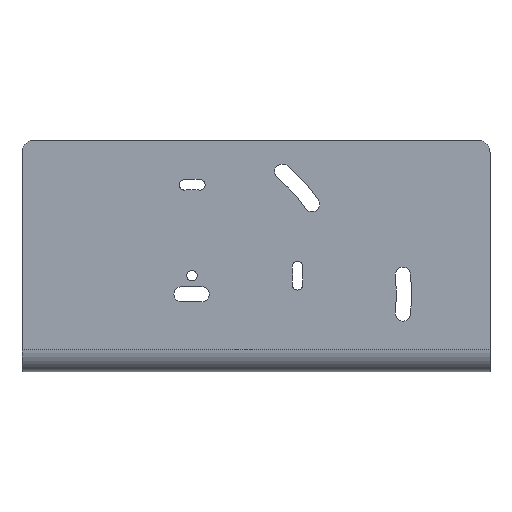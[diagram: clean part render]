
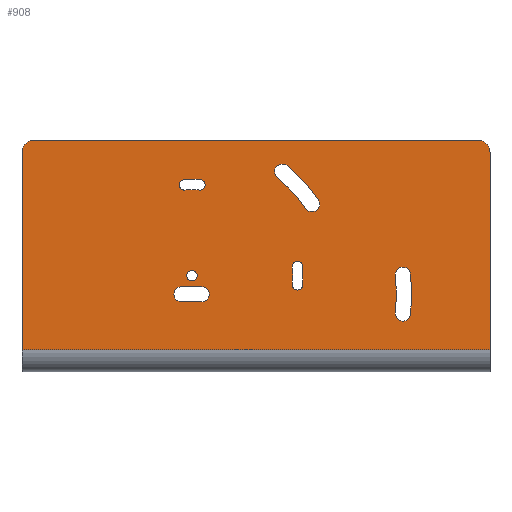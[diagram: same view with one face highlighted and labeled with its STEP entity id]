
A CAD part, front view. The second image highlights one B-rep face of the part: STEP entity #908.
In plain terms, the highlighted planar face has unit normal (0, -1, 0).
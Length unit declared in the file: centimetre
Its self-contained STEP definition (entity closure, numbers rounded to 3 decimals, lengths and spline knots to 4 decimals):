
#115=PLANE('',#1013);
#121=VECTOR('',#1028,1.);
#131=VECTOR('',#1062,1.);
#140=VECTOR('',#1125,1.);
#153=VECTOR('',#1169,1.);
#169=VECTOR('',#1239,1.);
#171=VECTOR('',#1246,1.);
#181=LINE('',#1290,#121);
#191=LINE('',#1330,#131);
#200=LINE('',#1395,#140);
#213=LINE('',#1433,#153);
#229=LINE('',#1492,#169);
#231=LINE('',#1498,#171);
#243=VERTEX_POINT('',#1289);
#244=VERTEX_POINT('',#1291);
#258=VERTEX_POINT('',#1323);
#260=VERTEX_POINT('',#1329);
#284=VERTEX_POINT('',#1381);
#288=VERTEX_POINT('',#1394);
#297=VERTEX_POINT('',#1437);
#298=VERTEX_POINT('',#1439);
#299=VERTEX_POINT('',#1443);
#300=VERTEX_POINT('',#1447);
#301=VERTEX_POINT('',#1453);
#302=VERTEX_POINT('',#1455);
#303=VERTEX_POINT('',#1459);
#304=VERTEX_POINT('',#1463);
#305=VERTEX_POINT('',#1469);
#306=VERTEX_POINT('',#1471);
#307=VERTEX_POINT('',#1475);
#308=VERTEX_POINT('',#1479);
#309=VERTEX_POINT('',#1485);
#310=VERTEX_POINT('',#1487);
#311=VERTEX_POINT('',#1491);
#312=VERTEX_POINT('',#1495);
#313=VERTEX_POINT('',#1501);
#314=VERTEX_POINT('',#1504);
#315=VERTEX_POINT('',#1506);
#316=VERTEX_POINT('',#1510);
#317=VERTEX_POINT('',#1514);
#330=CIRCLE('',#925,0.5);
#351=CIRCLE('',#949,0.5);
#361=CIRCLE('',#974,0.21);
#362=CIRCLE('',#976,4.51);
#363=CIRCLE('',#978,0.21);
#364=CIRCLE('',#980,4.09);
#365=CIRCLE('',#982,9.31);
#366=CIRCLE('',#984,0.31);
#367=CIRCLE('',#986,8.69);
#368=CIRCLE('',#988,0.31);
#369=CIRCLE('',#990,0.31);
#370=CIRCLE('',#992,6.7451);
#371=CIRCLE('',#994,0.31);
#372=CIRCLE('',#996,6.1251);
#373=CIRCLE('',#998,0.31);
#374=CIRCLE('',#1001,0.31);
#375=CIRCLE('',#1004,0.21);
#376=CIRCLE('',#1006,0.21);
#377=CIRCLE('',#1008,3.49);
#378=CIRCLE('',#1010,0.21);
#379=CIRCLE('',#1012,3.91);
#388=EDGE_CURVE('',#243,#244,#181,.T.);
#405=EDGE_CURVE('',#258,#243,#330,.T.);
#408=EDGE_CURVE('',#260,#258,#191,.T.);
#434=EDGE_CURVE('',#284,#260,#351,.T.);
#441=EDGE_CURVE('',#288,#284,#200,.T.);
#460=EDGE_CURVE('',#244,#288,#213,.T.);
#462=EDGE_CURVE('',#298,#297,#361,.T.);
#465=EDGE_CURVE('',#297,#299,#362,.T.);
#467=EDGE_CURVE('',#299,#300,#363,.T.);
#468=EDGE_CURVE('',#298,#300,#364,.T.);
#470=EDGE_CURVE('',#302,#301,#365,.T.);
#473=EDGE_CURVE('',#301,#303,#366,.T.);
#475=EDGE_CURVE('',#304,#303,#367,.T.);
#476=EDGE_CURVE('',#304,#302,#368,.T.);
#478=EDGE_CURVE('',#306,#305,#369,.T.);
#481=EDGE_CURVE('',#305,#307,#370,.T.);
#483=EDGE_CURVE('',#307,#308,#371,.T.);
#484=EDGE_CURVE('',#306,#308,#372,.T.);
#486=EDGE_CURVE('',#310,#309,#373,.T.);
#489=EDGE_CURVE('',#311,#309,#229,.T.);
#491=EDGE_CURVE('',#311,#312,#374,.T.);
#492=EDGE_CURVE('',#310,#312,#231,.T.);
#493=EDGE_CURVE('',#313,#313,#375,.T.);
#495=EDGE_CURVE('',#315,#314,#376,.T.);
#498=EDGE_CURVE('',#316,#314,#377,.T.);
#500=EDGE_CURVE('',#316,#317,#378,.T.);
#501=EDGE_CURVE('',#317,#315,#379,.T.);
#719=ORIENTED_EDGE('',*,*,#405,.F.);
#720=ORIENTED_EDGE('',*,*,#408,.F.);
#721=ORIENTED_EDGE('',*,*,#434,.F.);
#722=ORIENTED_EDGE('',*,*,#441,.F.);
#723=ORIENTED_EDGE('',*,*,#460,.F.);
#724=ORIENTED_EDGE('',*,*,#388,.F.);
#725=ORIENTED_EDGE('',*,*,#501,.T.);
#726=ORIENTED_EDGE('',*,*,#495,.T.);
#727=ORIENTED_EDGE('',*,*,#498,.F.);
#728=ORIENTED_EDGE('',*,*,#500,.T.);
#729=ORIENTED_EDGE('',*,*,#493,.T.);
#730=ORIENTED_EDGE('',*,*,#492,.F.);
#731=ORIENTED_EDGE('',*,*,#486,.T.);
#732=ORIENTED_EDGE('',*,*,#489,.F.);
#733=ORIENTED_EDGE('',*,*,#491,.T.);
#734=ORIENTED_EDGE('',*,*,#484,.F.);
#735=ORIENTED_EDGE('',*,*,#478,.T.);
#736=ORIENTED_EDGE('',*,*,#481,.T.);
#737=ORIENTED_EDGE('',*,*,#483,.T.);
#738=ORIENTED_EDGE('',*,*,#476,.T.);
#739=ORIENTED_EDGE('',*,*,#470,.T.);
#740=ORIENTED_EDGE('',*,*,#473,.T.);
#741=ORIENTED_EDGE('',*,*,#475,.F.);
#742=ORIENTED_EDGE('',*,*,#468,.F.);
#743=ORIENTED_EDGE('',*,*,#462,.T.);
#744=ORIENTED_EDGE('',*,*,#465,.T.);
#745=ORIENTED_EDGE('',*,*,#467,.T.);
#799=EDGE_LOOP('',(#719,#720,#721,#722,#723,#724));
#800=EDGE_LOOP('',(#725,#726,#727,#728));
#801=EDGE_LOOP('',(#729));
#802=EDGE_LOOP('',(#730,#731,#732,#733));
#803=EDGE_LOOP('',(#734,#735,#736,#737));
#804=EDGE_LOOP('',(#738,#739,#740,#741));
#805=EDGE_LOOP('',(#742,#743,#744,#745));
#859=FACE_BOUND('',#799,.T.);
#860=FACE_BOUND('',#800,.T.);
#861=FACE_BOUND('',#801,.T.);
#862=FACE_BOUND('',#802,.T.);
#863=FACE_BOUND('',#803,.T.);
#864=FACE_BOUND('',#804,.T.);
#865=FACE_BOUND('',#805,.T.);
#908=ADVANCED_FACE('',(#859,#860,#861,#862,#863,#864,#865),#115,.F.);
#925=AXIS2_PLACEMENT_3D('',#1324,#1057,#1058);
#949=AXIS2_PLACEMENT_3D('',#1382,#1111,#1112);
#974=AXIS2_PLACEMENT_3D('',#1438,#1174,#1175);
#976=AXIS2_PLACEMENT_3D('',#1444,#1180,#1181);
#978=AXIS2_PLACEMENT_3D('',#1448,#1185,#1186);
#980=AXIS2_PLACEMENT_3D('',#1450,#1189,#1190);
#982=AXIS2_PLACEMENT_3D('',#1454,#1194,#1195);
#984=AXIS2_PLACEMENT_3D('',#1460,#1200,#1201);
#986=AXIS2_PLACEMENT_3D('',#1464,#1205,#1206);
#988=AXIS2_PLACEMENT_3D('',#1466,#1209,#1210);
#990=AXIS2_PLACEMENT_3D('',#1470,#1214,#1215);
#992=AXIS2_PLACEMENT_3D('',#1476,#1220,#1221);
#994=AXIS2_PLACEMENT_3D('',#1480,#1225,#1226);
#996=AXIS2_PLACEMENT_3D('',#1482,#1229,#1230);
#998=AXIS2_PLACEMENT_3D('',#1486,#1234,#1235);
#1001=AXIS2_PLACEMENT_3D('',#1496,#1243,#1244);
#1004=AXIS2_PLACEMENT_3D('',#1500,#1249,#1250);
#1006=AXIS2_PLACEMENT_3D('',#1505,#1254,#1255);
#1008=AXIS2_PLACEMENT_3D('',#1511,#1260,#1261);
#1010=AXIS2_PLACEMENT_3D('',#1515,#1265,#1266);
#1012=AXIS2_PLACEMENT_3D('',#1517,#1269,#1270);
#1013=AXIS2_PLACEMENT_3D('',#1518,#1271,$);
#1028=DIRECTION('',(0.,0.,-1.));
#1057=DIRECTION('',(0.,1.,0.));
#1058=DIRECTION('',(0.354,0.,0.354));
#1062=DIRECTION('',(1.,0.,0.));
#1111=DIRECTION('',(0.,1.,0.));
#1112=DIRECTION('',(-0.354,0.,0.354));
#1125=DIRECTION('',(0.,0.,1.));
#1169=DIRECTION('',(-1.,0.,0.));
#1174=DIRECTION('',(0.,1.,0.));
#1175=DIRECTION('',(0.21,0.,0.));
#1180=DIRECTION('',(0.,1.,0.));
#1181=DIRECTION('',(4.51,0.,0.));
#1185=DIRECTION('',(0.,1.,0.));
#1186=DIRECTION('',(0.21,0.,0.));
#1189=DIRECTION('',(0.,1.,0.));
#1190=DIRECTION('',(4.09,0.,0.));
#1194=DIRECTION('',(0.,1.,0.));
#1195=DIRECTION('',(9.31,0.,0.));
#1200=DIRECTION('',(0.,1.,0.));
#1201=DIRECTION('',(0.31,0.,0.));
#1205=DIRECTION('',(0.,1.,0.));
#1206=DIRECTION('',(8.69,0.,0.));
#1209=DIRECTION('',(0.,1.,0.));
#1210=DIRECTION('',(0.31,0.,0.));
#1214=DIRECTION('',(0.,1.,0.));
#1215=DIRECTION('',(0.31,0.,0.));
#1220=DIRECTION('',(0.,1.,0.));
#1221=DIRECTION('',(6.745,0.,0.));
#1225=DIRECTION('',(0.,1.,0.));
#1226=DIRECTION('',(0.31,0.,0.));
#1229=DIRECTION('',(0.,1.,0.));
#1230=DIRECTION('',(6.125,0.,0.));
#1234=DIRECTION('',(0.,1.,0.));
#1235=DIRECTION('',(0.31,0.,0.));
#1239=DIRECTION('',(1.,0.,0.));
#1243=DIRECTION('',(0.,1.,0.));
#1244=DIRECTION('',(0.31,0.,0.));
#1246=DIRECTION('',(-1.,0.,0.));
#1249=DIRECTION('',(0.,1.,0.));
#1250=DIRECTION('',(0.21,0.,0.));
#1254=DIRECTION('',(0.,1.,0.));
#1255=DIRECTION('',(0.21,0.,0.));
#1260=DIRECTION('',(0.,1.,0.));
#1261=DIRECTION('',(3.49,0.,0.));
#1265=DIRECTION('',(0.,1.,0.));
#1266=DIRECTION('',(0.21,0.,0.));
#1269=DIRECTION('',(0.,1.,0.));
#1270=DIRECTION('',(3.91,0.,0.));
#1271=DIRECTION('',(0.,1.,0.));
#1289=CARTESIAN_POINT('',(14.,0.,7.5));
#1290=CARTESIAN_POINT('',(14.,0.,8.));
#1291=CARTESIAN_POINT('',(14.,0.,-0.5));
#1323=CARTESIAN_POINT('',(13.5,0.,8.));
#1324=CARTESIAN_POINT('',(13.5,0.,7.5));
#1329=CARTESIAN_POINT('',(-4.5,0.,8.));
#1330=CARTESIAN_POINT('',(-5.,0.,8.));
#1381=CARTESIAN_POINT('',(-5.,0.,7.5));
#1382=CARTESIAN_POINT('',(-4.5,0.,7.5));
#1394=CARTESIAN_POINT('',(-5.,0.,-0.5));
#1395=CARTESIAN_POINT('',(-5.,0.,0.));
#1433=CARTESIAN_POINT('',(4.5,0.,-0.5));
#1437=CARTESIAN_POINT('',(6.3928,0.,2.8931));
#1438=CARTESIAN_POINT('',(6.1836,0.,2.8748));
#1439=CARTESIAN_POINT('',(5.9744,0.,2.8565));
#1443=CARTESIAN_POINT('',(6.3928,0.,2.1069));
#1444=CARTESIAN_POINT('',(1.9,0.,2.5));
#1447=CARTESIAN_POINT('',(5.9744,0.,2.1435));
#1448=CARTESIAN_POINT('',(6.1836,0.,2.1252));
#1450=CARTESIAN_POINT('',(1.9,0.,2.5));
#1453=CARTESIAN_POINT('',(10.7746,0.,0.9386));
#1454=CARTESIAN_POINT('',(1.5,0.,1.75));
#1455=CARTESIAN_POINT('',(10.7746,0.,2.5614));
#1459=CARTESIAN_POINT('',(10.1569,0.,0.9926));
#1460=CARTESIAN_POINT('',(10.4658,0.,0.9656));
#1463=CARTESIAN_POINT('',(10.1569,0.,2.5074));
#1464=CARTESIAN_POINT('',(1.5,0.,1.75));
#1466=CARTESIAN_POINT('',(10.4658,0.,2.5344));
#1469=CARTESIAN_POINT('',(5.7586,0.,6.9643));
#1470=CARTESIAN_POINT('',(5.562,0.,6.7247));
#1471=CARTESIAN_POINT('',(5.3653,0.,6.485));
#1475=CARTESIAN_POINT('',(7.0301,0.,5.583));
#1476=CARTESIAN_POINT('',(1.48,0.,1.75));
#1479=CARTESIAN_POINT('',(6.52,0.,5.2307));
#1480=CARTESIAN_POINT('',(6.775,0.,5.4068));
#1482=CARTESIAN_POINT('',(1.48,0.,1.75));
#1485=CARTESIAN_POINT('',(2.3,0.,1.44));
#1486=CARTESIAN_POINT('',(2.3,0.,1.75));
#1487=CARTESIAN_POINT('',(2.3,0.,2.06));
#1491=CARTESIAN_POINT('',(1.48,0.,1.44));
#1492=CARTESIAN_POINT('',(1.48,0.,1.44));
#1495=CARTESIAN_POINT('',(1.48,0.,2.06));
#1496=CARTESIAN_POINT('',(1.48,0.,1.75));
#1498=CARTESIAN_POINT('',(2.3,0.,2.06));
#1500=CARTESIAN_POINT('',(1.9,0.,2.5));
#1501=CARTESIAN_POINT('',(2.11,0.,2.5));
#1504=CARTESIAN_POINT('',(2.2042,0.,5.9767));
#1505=CARTESIAN_POINT('',(2.2225,0.,6.1859));
#1506=CARTESIAN_POINT('',(2.2408,0.,6.3951));
#1510=CARTESIAN_POINT('',(1.6124,0.,5.9781));
#1511=CARTESIAN_POINT('',(1.9,0.,2.5));
#1514=CARTESIAN_POINT('',(1.5778,0.,6.3967));
#1515=CARTESIAN_POINT('',(1.5951,0.,6.1874));
#1517=CARTESIAN_POINT('',(1.9,0.,2.5));
#1518=CARTESIAN_POINT('',(4.5,0.,4.));
